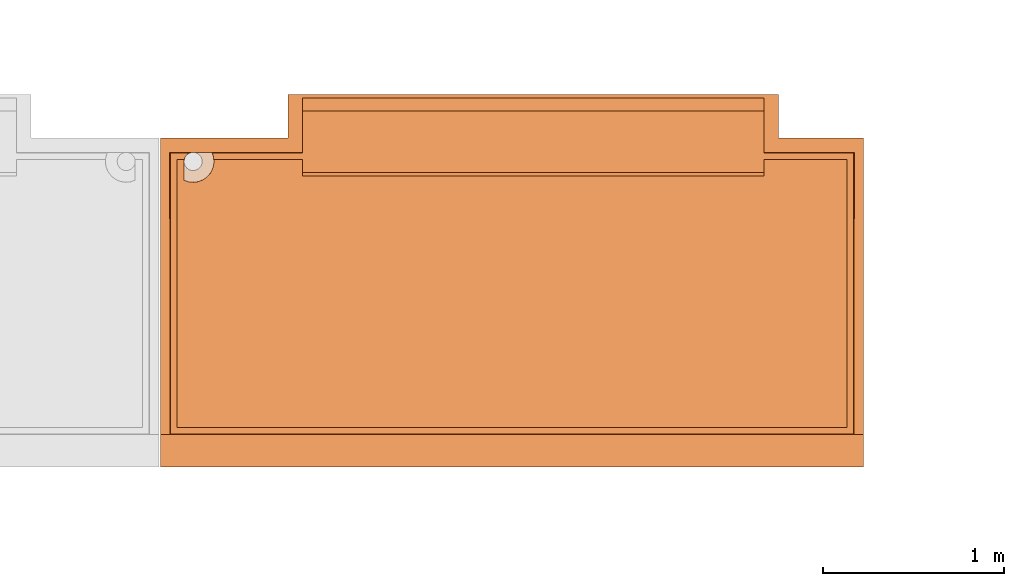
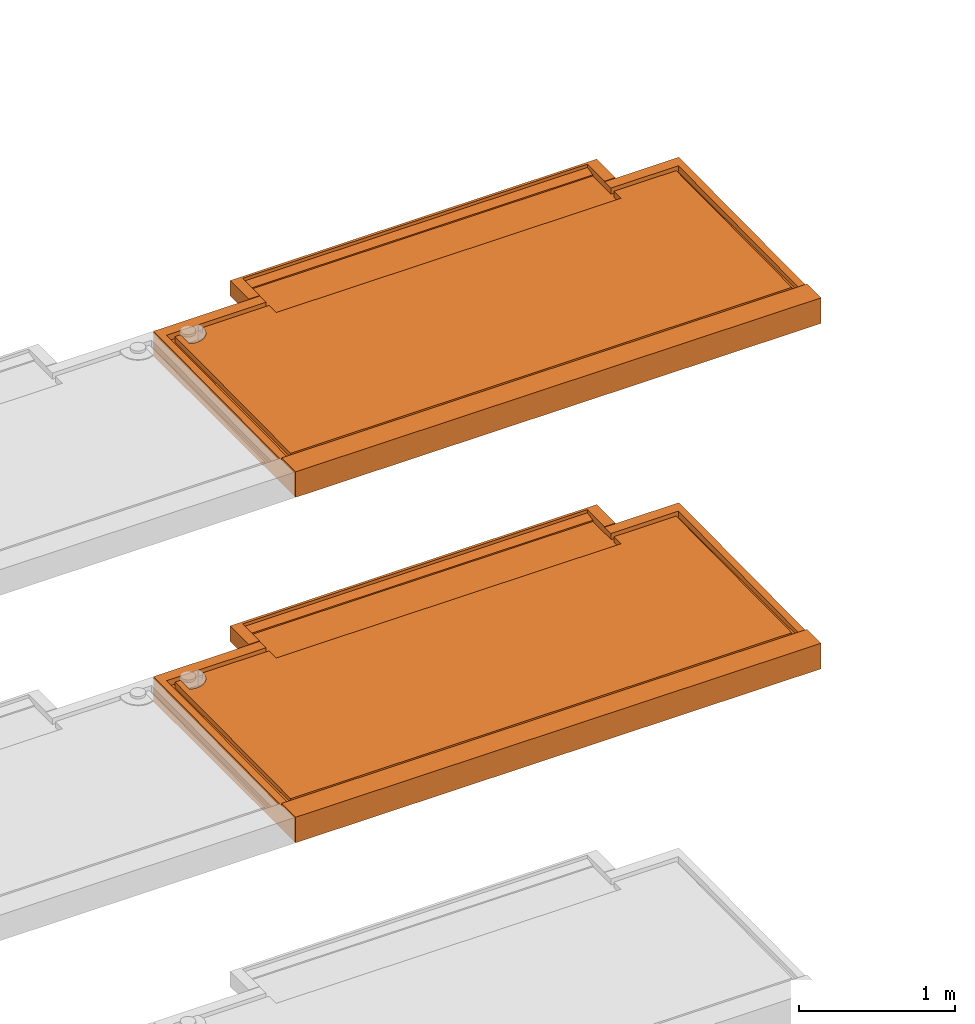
# One storey, part 12 of 31: 2 proxies, 2 elements without a shape of their own.
"""IFC2X3 building model written with IfcOpenShell, lengths in centimetres."""

from ifc_helpers import new_model, entity, si_unit, converted_unit, derived_unit, direction, frame, origin, place, context, subcontext, project, spatial, faceted_brep, source, transform, mapped, material, type_object, type_shapes, element, aggregate, save


model = new_model("IFC2X3")

# Units and contexts
model_context = context("Model", 3, precision=0.001, world=origin(), true_north=direction((6.12303176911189e-17, 1.0)))
body_context = subcontext(model_context, "Body", "Model", "MODEL_VIEW")
ifc_project = project(units=[si_unit("LENGTHUNIT", "METRE", prefix="CENTI"), si_unit("AREAUNIT", "SQUARE_METRE"), si_unit("VOLUMEUNIT", "CUBIC_METRE"), converted_unit("PLANEANGLEUNIT", "DEGREE", entity("IfcRatioMeasure", 0.0174532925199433), si_unit("PLANEANGLEUNIT", "RADIAN"), dimensions=[0, 0, 0, 0, 0, 0, 0]), si_unit("MASSUNIT", "GRAM", prefix="KILO"), derived_unit("MASSDENSITYUNIT", [(si_unit("MASSUNIT", "GRAM", prefix="KILO"), 1), (si_unit("LENGTHUNIT", "METRE"), -3)]), si_unit("TIMEUNIT", "SECOND"), si_unit("FREQUENCYUNIT", "HERTZ"), si_unit("THERMODYNAMICTEMPERATUREUNIT", "DEGREE_CELSIUS"), derived_unit("THERMALTRANSMITTANCEUNIT", [(si_unit("MASSUNIT", "GRAM", prefix="KILO"), 1), (si_unit("THERMODYNAMICTEMPERATUREUNIT", "KELVIN"), -1), (si_unit("TIMEUNIT", "SECOND"), -3)]), derived_unit("VOLUMETRICFLOWRATEUNIT", [(si_unit("LENGTHUNIT", "METRE"), 3), (si_unit("TIMEUNIT", "SECOND"), -1)]), si_unit("ELECTRICCURRENTUNIT", "AMPERE"), si_unit("ELECTRICVOLTAGEUNIT", "VOLT"), si_unit("POWERUNIT", "WATT"), si_unit("FORCEUNIT", "NEWTON"), si_unit("ILLUMINANCEUNIT", "LUX"), si_unit("LUMINOUSFLUXUNIT", "LUMEN"), si_unit("LUMINOUSINTENSITYUNIT", "CANDELA"), derived_unit("USERDEFINED", [(si_unit("MASSUNIT", "GRAM", prefix="KILO"), -1), (si_unit("LENGTHUNIT", "METRE"), -2), (si_unit("TIMEUNIT", "SECOND"), 3), (si_unit("LUMINOUSFLUXUNIT", "LUMEN"), 1)]), derived_unit("LINEARVELOCITYUNIT", [(si_unit("LENGTHUNIT", "METRE"), 1), (si_unit("TIMEUNIT", "SECOND"), -1)]), si_unit("PRESSUREUNIT", "PASCAL"), derived_unit("USERDEFINED", [(si_unit("LENGTHUNIT", "METRE"), -2), (si_unit("MASSUNIT", "GRAM", prefix="KILO"), 1), (si_unit("TIMEUNIT", "SECOND"), -2)])], contexts=[model_context])

# Site, building, storey
site_placement = place(None, origin())
site = spatial("IfcSite", under=ifc_project, at=site_placement, Name="Default", CompositionType="ELEMENT")
building_placement = place(site_placement, origin())
building = spatial("IfcBuilding", under=site, at=building_placement, Name="CAGE 03", CompositionType="ELEMENT")
storey_placement = place(building_placement, frame((0.0, 0.0, -400.0)))
storey = spatial("IfcBuildingStorey", under=building, at=storey_placement, Name="±0.00", CompositionType="ELEMENT", Elevation=-400.0)

# Assembly, proxy
assembly_1_placement = place(storey_placement, origin())
assembly_1 = element("IfcElementAssembly", 1, at=assembly_1_placement, inside=storey, Name="Assemblage Modèles génériques:BALCON TYPE 04", ObjectType="Assemblage Modèles génériques:BALCON TYPE 04", AssemblyPlace="NOTDEFINED", PredefinedType="USERDEFINED")
ifc_material = material(Name="Béton, panneaux préfa 30/37")
building_element_proxy_type_1 = type_object("IfcBuildingElementProxyType", Name="balcon préfa type 04", PredefinedType="NOTDEFINED", material=ifc_material)
shared_shape_1 = source(origin(), body_context, "Body", "Brep", [
    faceted_brep([(5.4374433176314, 173.562556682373, 15.0), (5.43744331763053, 18.437443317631, 15.0), (383.062556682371, 18.4374433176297, 15.0), (383.062556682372, 173.562556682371, 15.0), (333.500000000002, 173.562556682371, 15.0), (333.500000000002, 197.0, 15.0), (78.5000000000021, 197.0, 15.0), (78.5000000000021, 173.562556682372, 15.0), (28.5561866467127, 173.562556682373, 15.0), (29.1495236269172, 171.817467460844, 15.0), (29.456439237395, 170.0, 15.0), (78.5000000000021, 170.0, 15.0), (78.5000000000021, 163.0, 15.0), (333.500000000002, 163.0, 15.0), (333.500000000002, 170.0, 15.0), (379.500000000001, 170.0, 15.0), (379.5, 22.0, 15.0), (9.0, 22.0, 15.0), (9.0, 170.0, 15.0), (13.1010205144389, 170.0, 15.0), (13.4727634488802, 171.122293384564, 15.0), (14.0976215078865, 172.125930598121, 15.0), (14.9406592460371, 172.954798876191, 15.0), (15.9547429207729, 173.562556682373, 15.0), (70.5000000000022, 182.0, 20.0), (78.5000000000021, 182.0, 20.0), (78.5000000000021, 204.0, 20.0), (333.500000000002, 204.0, 20.0), (333.500000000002, 182.0, 20.0), (341.500000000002, 182.0, 20.0), (341.500000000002, 198.0, 20.0), (341.500000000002, 206.0, 20.0), (70.5000000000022, 206.0, 20.0), (70.5000000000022, 198.0, 20.0), (388.500000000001, 0.0, 20.0), (388.5, 18.0, 20.0), (0.0, 18.0, 20.0), (0.0, 0.0, 20.0), (70.5000000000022, 206.0, 8.0), (341.500000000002, 206.0, 8.0), (4.0, 180.0, 0.0), (14.4644660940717, 172.535533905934, 0.0), (13.6698729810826, 171.500000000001, 0.0), (13.1703708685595, 170.294095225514, 0.0), (15.5000000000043, 173.330127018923, 0.0), (4.0, 182.0, 0.0), (13.0, 169.0, 0.0), (13.1703708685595, 167.705904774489, 0.0), (13.6698729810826, 166.500000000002, 0.0), (4.0, 4.0, 0.0), (16.7059047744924, 173.829629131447, 0.0), (18.0, 174.0, 0.0), (19.2940952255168, 173.829629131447, 0.0), (20.500000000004, 173.330127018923, 0.0), (384.500000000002, 182.0, 0.0), (21.5355339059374, 172.535533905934, 0.0), (22.3301270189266, 171.500000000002, 0.0), (22.8296291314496, 170.294095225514, 0.0), (23.0, 169.0, 0.0), (384.500000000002, 180.0, 0.0), (22.8296291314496, 167.705904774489, 0.0), (384.500000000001, 4.0, 0.0), (22.3301270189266, 166.500000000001, 0.0), (14.4644660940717, 165.464466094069, 0.0), (15.5000000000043, 164.669872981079, 0.0), (16.7059047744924, 164.170370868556, 0.0), (18.0, 164.0, 0.0), (19.2940952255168, 164.170370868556, 0.0), (20.500000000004, 164.669872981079, 0.0), (21.5355339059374, 165.464466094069, 0.0), (0.0, 182.0, 0.0), (3.0, 182.0, 0.0), (3.0, 180.0, 0.0), (3.0, 3.0, 0.0), (385.500000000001, 3.0, 0.0), (385.500000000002, 180.0, 0.0), (385.500000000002, 182.0, 0.0), (388.500000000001, 182.0, 0.0), (388.500000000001, 180.0, 0.0), (388.500000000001, 0.0, 0.0), (0.0, 0.0, 0.0), (0.0, 180.0, 0.0), (5.04116008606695, 173.958839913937, 19.5295380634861), (17.3597604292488, 173.958839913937, 19.5295380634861), (17.6792193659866, 173.989699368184, 19.5298466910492), (18.0, 174.0, 19.5299497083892), (28.3561575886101, 174.0, 19.5299497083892), (28.3660638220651, 173.979429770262, 19.5297439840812), (28.3759291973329, 173.958839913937, 19.5295380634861), (78.5000000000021, 173.958839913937, 19.5295380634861), (78.5000000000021, 180.0, 19.589956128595), (78.5000000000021, 182.0, 19.6099582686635), (70.5000000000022, 182.0, 19.6099582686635), (0.0, 182.0, 19.6099582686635), (0.0, 180.0, 19.589956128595), (0.0, 18.1774657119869, 17.9715576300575), (5.1774657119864, 18.1774657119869, 17.9715576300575), (9.0, 22.0, 18.0097870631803), (379.5, 22.0, 18.0097870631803), (379.5, 170.0, 19.4899454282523), (333.500000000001, 170.0, 19.4899454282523), (333.500000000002, 161.001802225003, 19.3999538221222), (78.5000000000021, 161.001802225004, 19.3999538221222), (78.5000000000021, 170.0, 19.4899454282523), (29.4564392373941, 170.0, 19.4899454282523), (29.3757731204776, 167.314240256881, 19.4630849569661), (28.6740790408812, 164.720509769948, 19.4371448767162), (27.3896639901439, 162.360405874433, 19.4135413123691), (25.5926469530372, 160.362771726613, 19.3935628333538), (23.3811309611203, 158.836662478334, 19.3783001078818), (20.8758474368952, 157.865391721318, 19.3685863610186), (18.2135652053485, 157.501983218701, 19.3649518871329), (15.5396239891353, 157.766276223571, 19.3675950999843), (13.0, 158.643842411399, 19.3763717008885), (13.0, 169.0, 19.479944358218), (13.0253192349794, 169.502544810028, 19.4849703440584), (13.1010205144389, 170.0, 19.4899454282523), (9.0, 170.0, 19.4899454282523), (333.500000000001, 180.0, 19.5899561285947), (333.500000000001, 173.958839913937, 19.5295380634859), (383.458839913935, 173.958839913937, 19.5295380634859), (383.322534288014, 18.1774657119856, 17.9715576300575), (388.5, 18.177465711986, 17.9715576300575), (388.500000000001, 180.0, 19.589956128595), (388.500000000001, 182.0, 19.6099582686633), (341.500000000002, 182.0, 19.6099582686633), (333.500000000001, 182.0, 19.6099582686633), (333.500000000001, 197.0, 15.9713250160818), (333.500000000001, 204.0, 17.4999999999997), (333.500000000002, 163.0, 16.9198129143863), (333.500000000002, 161.026803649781, 16.9000788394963), (16.2941522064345, 173.700008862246, 16.5710856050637), (16.6427110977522, 173.812251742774, 17.8540276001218), (16.9985500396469, 173.898683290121, 18.8419447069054), (28.3874297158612, 173.934178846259, 19.2476607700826), (28.3989302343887, 173.909517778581, 18.9657834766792), (28.4219312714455, 173.860195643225, 18.4020288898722), (28.4679333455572, 173.761551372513, 17.2745197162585), (28.5120599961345, 173.662054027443, 16.137259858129), (4.0, 4.0, 1.46630765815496), (384.5, 4.0, 1.46630765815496), (385.5, 3.0, 1.0), (3.0, 3.0, 1.0), (78.5000000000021, 204.0, 17.4999999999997), (70.5000000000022, 198.0, 8.0), (341.500000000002, 198.0, 8.0), (341.500000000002, 182.0, 8.0), (70.5000000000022, 182.0, 8.0), (385.500000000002, 182.0, 1.0), (384.500000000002, 182.0, 1.46630765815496), (4.0, 182.0, 1.46630765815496), (3.0, 182.0, 1.0), (78.5000000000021, 197.0, 15.9713250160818), (78.5000000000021, 161.026803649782, 16.9000788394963), (78.5000000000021, 163.0, 16.9198129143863), (385.500000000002, 180.0, 1.0), (384.500000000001, 180.0, 1.46630765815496), (3.0, 180.0, 1.0), (4.0, 180.0, 1.46630765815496), (15.6842282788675, 157.735578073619, 7.69999999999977), (18.5090668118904, 157.511272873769, 7.69999999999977), (21.3029955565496, 157.984546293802, 7.69999999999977), (23.8963712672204, 159.126661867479, 7.69999999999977), (26.1317279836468, 160.868272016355, 7.69999999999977), (27.8733381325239, 163.10362873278, 7.69999999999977), (29.0154537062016, 165.697004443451, 7.69999999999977), (29.4887271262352, 168.490933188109, 7.69999999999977), (29.2644219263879, 171.315771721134, 7.69999999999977), (28.3561575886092, 174.0, 7.69999999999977), (18.0, 174.0, 7.69999999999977), (19.2940952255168, 173.829629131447, 7.69999999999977), (20.500000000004, 173.330127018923, 7.69999999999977), (21.5355339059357, 172.535533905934, 7.69999999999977), (22.3301270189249, 171.500000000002, 7.69999999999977), (22.8296291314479, 170.294095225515, 7.69999999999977), (23.0, 169.0, 7.69999999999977), (22.8296291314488, 167.705904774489, 7.69999999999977), (22.3301270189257, 166.500000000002, 7.69999999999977), (21.5355339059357, 165.464466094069, 7.69999999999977), (20.5000000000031, 164.66987298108, 7.69999999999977), (19.2940952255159, 164.170370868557, 7.69999999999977), (18.0, 164.0, 7.69999999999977), (16.7059047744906, 164.170370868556, 7.69999999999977), (15.5000000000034, 164.669872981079, 7.69999999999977), (14.4644660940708, 165.464466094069, 7.69999999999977), (13.6698729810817, 166.500000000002, 7.69999999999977), (13.1703708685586, 167.705904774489, 7.69999999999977), (13.0, 169.0, 7.69999999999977), (13.0, 158.643842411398, 7.69999999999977), (28.3561575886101, 174.0, 15.0937185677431), (28.3561575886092, 174.0, 16.5724622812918), (28.3561575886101, 174.0, 18.0512059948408), (28.3561575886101, 174.0, 13.6149748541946), (28.3561575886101, 174.0, 18.7905778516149), (28.3561575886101, 174.0, 19.160263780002)], [[[0, 1, 2, 3, 4, 5, 6, 7, 8, 9, 10, 11, 12, 13, 14, 15, 16, 17, 18, 19, 20, 21, 22, 23]], [[24, 25, 26, 27, 28, 29, 30, 31, 32, 33]], [[34, 35, 36, 37]], [[38, 32, 31, 39]], [[40, 41, 42]], [[40, 42, 43]], [[44, 41, 40]], [[44, 40, 45]], [[43, 46, 40]], [[47, 40, 46]], [[40, 47, 48]], [[40, 48, 49]], [[50, 44, 45]], [[51, 50, 45]], [[45, 52, 51]], [[52, 45, 53]], [[45, 54, 53]], [[55, 53, 54]], [[54, 56, 55]], [[57, 56, 54]], [[57, 54, 58]], [[54, 59, 58]], [[58, 59, 60]], [[59, 61, 60]], [[61, 49, 62]], [[61, 62, 60]], [[48, 63, 49]], [[63, 64, 49]], [[64, 65, 49]], [[66, 49, 65]], [[67, 49, 66]], [[68, 49, 67]], [[49, 68, 69]], [[62, 49, 69]], [[70, 71, 72, 73, 74, 75, 76, 77, 78, 79, 80, 81]], [[37, 80, 79, 34]], [[82, 83, 84, 85, 86, 87, 88, 89, 90, 91, 92, 93, 94, 95, 96]], [[97, 98, 99, 100, 101, 102, 103, 104, 105, 106, 107, 108, 109, 110, 111, 112, 113, 114, 115, 116, 117]], [[118, 119, 120, 121, 122, 123, 124, 125, 126]], [[78, 77, 124, 123, 122, 35, 34, 79]], [[121, 2, 1, 96, 95, 36, 35, 122]], [[127, 5, 4, 119, 118, 126, 28, 27, 128]], [[100, 14, 13, 129, 130, 101]], [[23, 131, 132, 133, 83, 82, 0]], [[3, 120, 119, 4]], [[89, 88, 134, 135, 136, 137, 138, 8, 7]], [[17, 16, 98, 97]], [[139, 140, 141, 142]], [[26, 143, 128, 27]], [[144, 38, 39, 145, 146, 147]], [[93, 92, 147, 146, 125, 124, 77, 76, 148, 149, 54, 45, 150, 151, 71, 70]], [[143, 26, 25, 91, 90, 89, 7, 6, 152]], [[103, 102, 153, 154, 12, 11]], [[19, 18, 117, 116]], [[15, 14, 100, 99]], [[103, 11, 10, 104]], [[139, 49, 61, 140]], [[152, 6, 5, 127]], [[18, 17, 97, 117]], [[153, 102, 101, 130]], [[154, 153, 130, 129]], [[12, 154, 129, 13]], [[80, 37, 36, 95, 94, 93, 70, 81]], [[142, 141, 74, 73]], [[143, 152, 127, 128]], [[0, 82, 96, 1]], [[29, 28, 126, 125]], [[25, 24, 92, 91]], [[76, 75, 74, 141, 155, 148]], [[156, 140, 61, 59, 54, 149]], [[155, 141, 140, 156, 149, 148]], [[73, 72, 71, 151, 157, 142]], [[158, 150, 45, 40, 49, 139]], [[139, 142, 157, 151, 150, 158]], [[98, 16, 15, 99]], [[121, 120, 3, 2]], [[30, 29, 125, 146, 145, 39, 31]], [[33, 32, 38, 144, 147, 92, 24]], [[159, 160, 161, 162, 163, 164, 165, 166, 167, 168, 169, 170, 171, 172, 173, 174, 175, 176, 177, 178, 179, 180, 181, 182, 183, 184, 185, 186, 187, 188]], [[187, 114, 113, 188]], [[159, 188, 112]], [[159, 111, 160]], [[108, 163, 162]], [[162, 161, 109]], [[161, 160, 110]], [[164, 163, 107]], [[8, 138, 189]], [[188, 113, 112]], [[159, 112, 111]], [[189, 138, 190]], [[191, 190, 137]], [[161, 110, 109]], [[138, 137, 190]], [[163, 108, 107]], [[108, 162, 109]], [[189, 192, 8]], [[110, 160, 111]], [[88, 87, 134]], [[107, 106, 164]], [[166, 165, 105]], [[167, 166, 10]], [[10, 166, 105]], [[9, 168, 167]], [[193, 191, 136]], [[192, 168, 9]], [[192, 9, 8]], [[10, 9, 167]], [[194, 134, 87]], [[105, 165, 106]], [[104, 10, 105]], [[87, 86, 194]], [[136, 191, 137]], [[136, 135, 193]], [[135, 134, 194]], [[194, 193, 135]], [[164, 106, 165]], [[85, 169, 168, 192, 189, 190, 191, 193, 194, 86]], [[48, 47, 186, 185]], [[48, 185, 184, 63]], [[65, 64, 183, 182]], [[184, 183, 64, 63]], [[66, 65, 182, 181]], [[46, 187, 186, 47]], [[68, 67, 180, 179]], [[68, 179, 178, 69]], [[60, 62, 177, 176]], [[178, 177, 62, 69]], [[58, 60, 176, 175]], [[181, 180, 67, 66]], [[57, 174, 173, 56]], [[58, 175, 174, 57]], [[171, 170, 52, 53]], [[53, 55, 172, 171]], [[55, 56, 173, 172]], [[51, 52, 170, 169]], [[85, 84, 169]], [[83, 169, 84]], [[133, 169, 83]], [[50, 51, 169]], [[23, 44, 50]], [[44, 23, 22]], [[22, 41, 44]], [[131, 23, 50]], [[187, 46, 43]], [[42, 41, 21]], [[42, 20, 43]], [[22, 21, 41]], [[43, 19, 187]], [[132, 50, 133]], [[131, 50, 132]], [[42, 21, 20]], [[116, 115, 19]], [[115, 187, 19]], [[115, 114, 187]], [[20, 19, 43]], [[169, 133, 50]]]),
])
type_shapes(building_element_proxy_type_1, [shared_shape_1])
proxy_1_placement = place(assembly_1_placement, frame((7081.86582014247, 3796.6606660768, 1530.0)))
proxy_1 = element("IfcBuildingElementProxy", 2, at=proxy_1_placement, type_object=building_element_proxy_type_1, material=ifc_material, Name="BY_STR_Balcon_préfa_04:balcon préfa type 04", ObjectType="balcon préfa type 04", context=body_context, shape_type="MappedRepresentation", body=[
    mapped(shared_shape_1, transform((0.0, 0.0, 0.0), scale=1.0)),
])
aggregate(assembly_1, [proxy_1])

assembly_2_placement = place(storey_placement, origin())
assembly_2 = element("IfcElementAssembly", 3, at=assembly_2_placement, inside=storey, Name="Assemblage Modèles génériques:BALCON TYPE 04", ObjectType="Assemblage Modèles génériques:BALCON TYPE 04", AssemblyPlace="NOTDEFINED", PredefinedType="USERDEFINED")
building_element_proxy_type_2 = type_object("IfcBuildingElementProxyType", Name="balcon préfa type 04", PredefinedType="NOTDEFINED", material=ifc_material)
shared_shape_2 = source(origin(), body_context, "Body", "Brep", [
    faceted_brep([(5.4374433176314, 173.562556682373, 15.0), (5.43744331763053, 18.437443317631, 15.0), (383.062556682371, 18.4374433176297, 15.0), (383.062556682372, 173.562556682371, 15.0), (333.500000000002, 173.562556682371, 15.0), (333.500000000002, 197.0, 15.0), (78.5000000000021, 197.0, 15.0), (78.5000000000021, 173.562556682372, 15.0), (28.5561866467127, 173.562556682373, 15.0), (29.1495236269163, 171.817467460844, 15.0), (29.4564392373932, 170.0, 15.0), (78.5000000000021, 170.0, 15.0), (78.5000000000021, 163.0, 15.0), (333.500000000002, 163.0, 15.0), (333.500000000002, 170.0, 15.0), (379.500000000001, 170.0, 15.0), (379.5, 22.0, 15.0), (9.0, 22.0, 15.0), (9.0, 170.0, 15.0), (13.1010205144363, 170.0, 15.0), (13.4727634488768, 171.122293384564, 15.0), (14.0976215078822, 172.12593059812, 15.0), (14.9406592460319, 172.954798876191, 15.0), (15.954742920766, 173.562556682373, 15.0), (70.5000000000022, 182.0, 20.0), (78.5000000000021, 182.0, 20.0), (78.5000000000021, 204.0, 20.0), (333.500000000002, 204.0, 20.0), (333.500000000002, 182.0, 20.0), (341.500000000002, 182.0, 20.0), (341.500000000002, 198.0, 20.0), (341.500000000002, 206.0, 20.0), (70.5000000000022, 206.0, 20.0), (70.5000000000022, 198.0, 20.0), (388.500000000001, 0.0, 20.0), (388.5, 18.0, 20.0), (0.0, 18.0, 20.0), (0.0, 0.0, 20.0), (70.5000000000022, 206.0, 8.0), (341.500000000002, 206.0, 8.0), (4.0, 180.0, 0.0), (14.4644660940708, 172.535533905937, 0.0), (13.6698729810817, 171.500000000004, 0.0), (13.1703708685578, 170.294095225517, 0.0), (15.5000000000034, 173.330127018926, 0.0), (4.0, 182.0, 0.0), (13.0, 169.0, 0.0), (13.1703708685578, 167.705904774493, 0.0), (13.6698729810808, 166.500000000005, 0.0), (4.0, 4.0, 0.0), (16.7059047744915, 173.829629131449, 0.0), (18.0, 174.0, 0.0), (19.2940952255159, 173.829629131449, 0.0), (20.5000000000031, 173.330127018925, 0.0), (384.500000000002, 182.0, 0.0), (21.5355339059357, 172.535533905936, 0.0), (22.3301270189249, 171.500000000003, 0.0), (22.8296291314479, 170.294095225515, 0.0), (23.0, 169.0, 0.0), (384.500000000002, 180.0, 0.0), (22.8296291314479, 167.705904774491, 0.0), (384.500000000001, 4.0, 0.0), (22.330127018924, 166.500000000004, 0.0), (14.46446609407, 165.464466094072, 0.0), (15.5000000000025, 164.669872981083, 0.0), (16.7059047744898, 164.170370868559, 0.0), (18.0, 164.0, 0.0), (19.2940952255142, 164.170370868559, 0.0), (20.5000000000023, 164.669872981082, 0.0), (21.5355339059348, 165.464466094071, 0.0), (0.0, 182.0, 0.0), (3.0, 182.0, 0.0), (3.0, 180.0, 0.0), (3.0, 3.0, 0.0), (385.500000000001, 3.0, 0.0), (385.500000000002, 180.0, 0.0), (385.500000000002, 182.0, 0.0), (388.500000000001, 182.0, 0.0), (388.500000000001, 180.0, 0.0), (388.500000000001, 0.0, 0.0), (0.0, 0.0, 0.0), (0.0, 180.0, 0.0), (5.04116008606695, 173.958839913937, 19.5295380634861), (17.3597604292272, 173.958839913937, 19.5295380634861), (17.6792193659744, 173.989699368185, 19.5298466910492), (18.0, 174.0, 19.5299497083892), (28.3561575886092, 174.0, 19.5299497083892), (28.3660638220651, 173.979429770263, 19.5297439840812), (28.375929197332, 173.958839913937, 19.5295380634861), (78.5000000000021, 173.958839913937, 19.5295380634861), (78.5000000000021, 180.0, 19.589956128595), (78.5000000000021, 182.0, 19.6099582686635), (70.5000000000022, 182.0, 19.6099582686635), (0.0, 182.0, 19.6099582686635), (0.0, 180.0, 19.589956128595), (0.0, 18.1774657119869, 17.9715576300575), (5.1774657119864, 18.1774657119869, 17.9715576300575), (9.0, 22.0, 18.0097870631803), (379.5, 22.0, 18.0097870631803), (379.5, 170.0, 19.4899454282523), (333.500000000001, 170.0, 19.4899454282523), (333.500000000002, 161.001802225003, 19.3999538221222), (78.5000000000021, 161.001802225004, 19.3999538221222), (78.5000000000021, 170.0, 19.4899454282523), (29.4564392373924, 170.0, 19.4899454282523), (29.375773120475, 167.314240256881, 19.4630849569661), (28.6740790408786, 164.720509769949, 19.4371448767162), (27.3896639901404, 162.360405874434, 19.4135413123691), (25.5926469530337, 160.362771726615, 19.3935628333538), (23.3811309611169, 158.836662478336, 19.3783001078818), (20.8758474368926, 157.86539172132, 19.3685863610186), (18.2135652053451, 157.501983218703, 19.3649518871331), (15.5396239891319, 157.766276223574, 19.3675950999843), (13.0, 158.643842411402, 19.3763717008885), (13.0, 169.0, 19.479944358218), (13.0253192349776, 169.50254481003, 19.4849703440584), (13.1010205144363, 170.0, 19.4899454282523), (9.0, 170.0, 19.4899454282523), (333.500000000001, 180.0, 19.5899561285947), (333.500000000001, 173.958839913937, 19.5295380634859), (383.458839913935, 173.958839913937, 19.5295380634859), (383.322534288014, 18.1774657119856, 17.9715576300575), (388.5, 18.177465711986, 17.9715576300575), (388.500000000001, 180.0, 19.5899561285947), (388.500000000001, 182.0, 19.6099582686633), (341.500000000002, 182.0, 19.6099582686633), (333.500000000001, 182.0, 19.6099582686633), (333.500000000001, 197.0, 15.9713250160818), (333.500000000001, 204.0, 17.4999999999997), (333.500000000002, 163.0, 16.9198129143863), (333.500000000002, 161.026803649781, 16.9000788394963), (16.2941522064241, 173.700008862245, 16.5710856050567), (16.6427110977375, 173.812251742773, 17.8540276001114), (16.9985500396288, 173.89868329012, 18.8419447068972), (28.3874297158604, 173.934178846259, 19.2476607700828), (28.3989302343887, 173.909517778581, 18.9657834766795), (28.4219312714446, 173.860195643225, 18.4020288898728), (28.4679333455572, 173.761551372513, 17.2745197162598), (28.5120599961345, 173.662054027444, 16.1372598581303), (4.0, 4.0, 1.46630765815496), (384.5, 4.0, 1.46630765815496), (385.5, 3.0, 1.0), (3.0, 3.0, 1.0), (78.5000000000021, 204.0, 17.4999999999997), (70.5000000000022, 198.0, 8.0), (341.500000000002, 198.0, 8.0), (341.500000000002, 182.0, 8.0), (70.5000000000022, 182.0, 8.0), (385.500000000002, 182.0, 1.0), (384.500000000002, 182.0, 1.46630765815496), (4.0, 182.0, 1.46630765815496), (3.0, 182.0, 1.0), (78.5000000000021, 197.0, 15.9713250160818), (78.5000000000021, 161.026803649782, 16.9000788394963), (78.5000000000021, 163.0, 16.9198129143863), (385.500000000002, 180.0, 1.0), (384.500000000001, 180.0, 1.46630765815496), (3.0, 180.0, 1.0), (4.0, 180.0, 1.46630765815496), (15.6842282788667, 157.73557807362, 7.69999999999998), (18.5090668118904, 157.51127287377, 7.69999999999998), (21.3029955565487, 157.984546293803, 7.69999999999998), (23.8963712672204, 159.126661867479, 7.69999999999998), (26.1317279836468, 160.868272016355, 7.69999999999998), (27.8733381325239, 163.10362873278, 7.69999999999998), (29.0154537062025, 165.697004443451, 7.69999999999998), (29.4887271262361, 168.490933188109, 7.69999999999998), (29.2644219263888, 171.315771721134, 7.69999999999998), (28.3561575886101, 174.0, 7.69999999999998), (18.0, 174.0, 7.69999999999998), (19.2940952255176, 173.829629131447, 7.69999999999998), (20.5000000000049, 173.330127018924, 7.69999999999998), (21.5355339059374, 172.535533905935, 7.69999999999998), (22.3301270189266, 171.500000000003, 7.69999999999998), (22.8296291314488, 170.294095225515, 7.69999999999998), (23.0, 169.0, 7.69999999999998), (22.8296291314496, 167.70590477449, 7.69999999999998), (22.3301270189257, 166.500000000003, 7.69999999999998), (21.5355339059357, 165.46446609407, 7.69999999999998), (20.5000000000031, 164.669872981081, 7.69999999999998), (19.2940952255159, 164.170370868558, 7.69999999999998), (18.0, 164.0, 7.69999999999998), (16.7059047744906, 164.170370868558, 7.69999999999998), (15.5000000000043, 164.669872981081, 7.69999999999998), (14.4644660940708, 165.464466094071, 7.69999999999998), (13.6698729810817, 166.500000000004, 7.69999999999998), (13.1703708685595, 167.705904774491, 7.69999999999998), (13.0, 169.0, 7.69999999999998), (13.0, 158.643842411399, 7.69999999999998), (28.3561575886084, 174.0, 15.0937185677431), (28.3561575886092, 174.0, 16.5724622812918), (28.3561575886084, 174.0, 18.0512059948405), (28.3561575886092, 174.0, 13.6149748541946), (28.3561575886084, 174.0, 18.7905778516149), (28.3561575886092, 174.0, 19.1602637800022)], [[[0, 1, 2, 3, 4, 5, 6, 7, 8, 9, 10, 11, 12, 13, 14, 15, 16, 17, 18, 19, 20, 21, 22, 23]], [[24, 25, 26, 27, 28, 29, 30, 31, 32, 33]], [[34, 35, 36, 37]], [[38, 32, 31, 39]], [[40, 41, 42]], [[40, 42, 43]], [[44, 41, 40]], [[44, 40, 45]], [[43, 46, 40]], [[47, 40, 46]], [[40, 47, 48]], [[40, 48, 49]], [[50, 44, 45]], [[51, 50, 45]], [[45, 52, 51]], [[52, 45, 53]], [[45, 54, 53]], [[55, 53, 54]], [[54, 56, 55]], [[57, 56, 54]], [[57, 54, 58]], [[54, 59, 58]], [[58, 59, 60]], [[59, 61, 60]], [[61, 49, 62]], [[61, 62, 60]], [[48, 63, 49]], [[63, 64, 49]], [[64, 65, 49]], [[66, 49, 65]], [[67, 49, 66]], [[68, 49, 67]], [[49, 68, 69]], [[62, 49, 69]], [[70, 71, 72, 73, 74, 75, 76, 77, 78, 79, 80, 81]], [[37, 80, 79, 34]], [[82, 83, 84, 85, 86, 87, 88, 89, 90, 91, 92, 93, 94, 95, 96]], [[97, 98, 99, 100, 101, 102, 103, 104, 105, 106, 107, 108, 109, 110, 111, 112, 113, 114, 115, 116, 117]], [[118, 119, 120, 121, 122, 123, 124, 125, 126]], [[78, 77, 124, 123, 122, 35, 34, 79]], [[121, 2, 1, 96, 95, 36, 35, 122]], [[127, 5, 4, 119, 118, 126, 28, 27, 128]], [[100, 14, 13, 129, 130, 101]], [[23, 131, 132, 133, 83, 82, 0]], [[3, 120, 119, 4]], [[89, 88, 134, 135, 136, 137, 138, 8, 7]], [[17, 16, 98, 97]], [[139, 140, 141, 142]], [[26, 143, 128, 27]], [[144, 38, 39, 145, 146, 147]], [[93, 92, 147, 146, 125, 124, 77, 76, 148, 149, 54, 45, 150, 151, 71, 70]], [[143, 26, 25, 91, 90, 89, 7, 6, 152]], [[103, 102, 153, 154, 12, 11]], [[19, 18, 117, 116]], [[15, 14, 100, 99]], [[103, 11, 10, 104]], [[139, 49, 61, 140]], [[152, 6, 5, 127]], [[18, 17, 97, 117]], [[153, 102, 101, 130]], [[154, 153, 130, 129]], [[12, 154, 129, 13]], [[80, 37, 36, 95, 94, 93, 70, 81]], [[142, 141, 74, 73]], [[143, 152, 127, 128]], [[0, 82, 96, 1]], [[29, 28, 126, 125]], [[25, 24, 92, 91]], [[76, 75, 74, 141, 155, 148]], [[156, 140, 61, 59, 54, 149]], [[155, 141, 140, 156, 149, 148]], [[73, 72, 71, 151, 157, 142]], [[158, 150, 45, 40, 49, 139]], [[139, 142, 157, 151, 150, 158]], [[98, 16, 15, 99]], [[121, 120, 3, 2]], [[30, 29, 125, 146, 145, 39, 31]], [[33, 32, 38, 144, 147, 92, 24]], [[159, 160, 161, 162, 163, 164, 165, 166, 167, 168, 169, 170, 171, 172, 173, 174, 175, 176, 177, 178, 179, 180, 181, 182, 183, 184, 185, 186, 187, 188]], [[187, 114, 113, 188]], [[159, 188, 112]], [[159, 111, 160]], [[108, 163, 162]], [[162, 161, 109]], [[161, 160, 110]], [[164, 163, 107]], [[8, 138, 189]], [[188, 113, 112]], [[159, 112, 111]], [[189, 138, 190]], [[191, 190, 137]], [[161, 110, 109]], [[138, 137, 190]], [[163, 108, 107]], [[108, 162, 109]], [[189, 192, 8]], [[110, 160, 111]], [[88, 87, 134]], [[107, 106, 164]], [[166, 165, 105]], [[167, 166, 10]], [[10, 166, 105]], [[9, 168, 167]], [[193, 191, 136]], [[192, 168, 9]], [[192, 9, 8]], [[10, 9, 167]], [[194, 134, 87]], [[105, 165, 106]], [[104, 10, 105]], [[87, 86, 194]], [[136, 191, 137]], [[136, 135, 193]], [[135, 134, 194]], [[194, 193, 135]], [[164, 106, 165]], [[85, 169, 168, 192, 189, 190, 191, 193, 194, 86]], [[48, 47, 186, 185]], [[48, 185, 184, 63]], [[65, 64, 183, 182]], [[184, 183, 64, 63]], [[66, 65, 182, 181]], [[46, 187, 186, 47]], [[68, 67, 180, 179]], [[68, 179, 178, 69]], [[60, 62, 177, 176]], [[178, 177, 62, 69]], [[58, 60, 176, 175]], [[181, 180, 67, 66]], [[57, 174, 173, 56]], [[58, 175, 174, 57]], [[171, 170, 52, 53]], [[53, 55, 172, 171]], [[55, 56, 173, 172]], [[51, 52, 170, 169]], [[85, 84, 169]], [[83, 169, 84]], [[133, 169, 83]], [[50, 51, 169]], [[23, 44, 50]], [[44, 23, 22]], [[22, 41, 44]], [[131, 23, 50]], [[187, 46, 43]], [[42, 41, 21]], [[42, 20, 43]], [[22, 21, 41]], [[43, 19, 187]], [[132, 50, 133]], [[131, 50, 132]], [[42, 21, 20]], [[116, 115, 19]], [[115, 187, 19]], [[115, 114, 187]], [[20, 19, 43]], [[169, 133, 50]]]),
])
type_shapes(building_element_proxy_type_2, [shared_shape_2])
proxy_2_placement = place(assembly_2_placement, frame((7081.86582014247, 3796.6606660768, 1800.0)))
proxy_2 = element("IfcBuildingElementProxy", 4, at=proxy_2_placement, type_object=building_element_proxy_type_2, material=ifc_material, Name="BY_STR_Balcon_préfa_04:balcon préfa type 04", ObjectType="balcon préfa type 04", context=body_context, shape_type="MappedRepresentation", body=[
    mapped(shared_shape_2, transform((0.0, 0.0, 0.0), scale=1.0)),
])
aggregate(assembly_2, [proxy_2])

save(model, "model.ifc")
